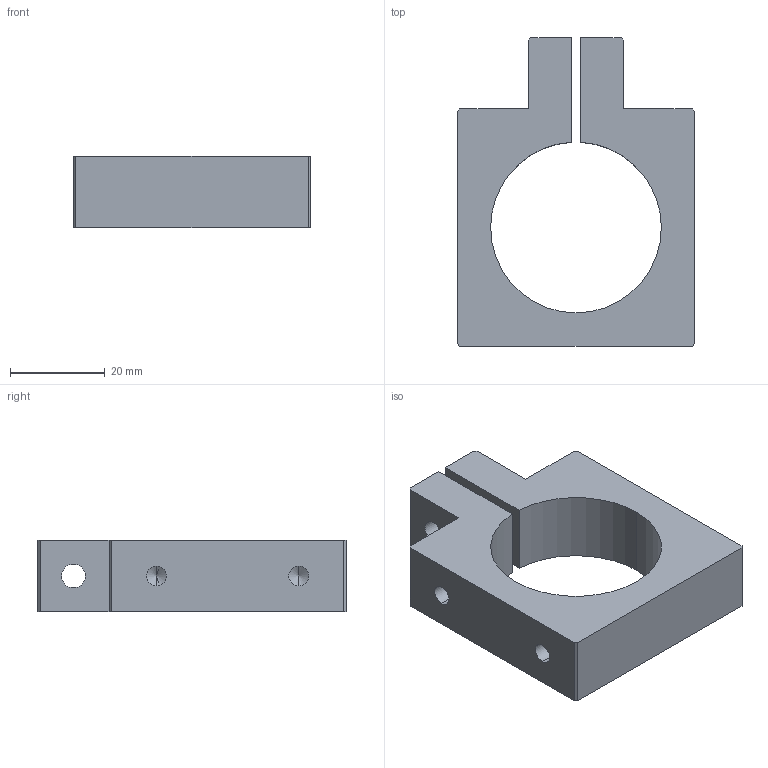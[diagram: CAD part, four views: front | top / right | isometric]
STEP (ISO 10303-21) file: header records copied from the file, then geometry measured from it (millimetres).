
FILE_DESCRIPTION (( 'STEP AP214' ), '1' );
FILE_NAME ('SCE4-NR10.STEP', '2019-11-19T02:24:18', ( '微软用户' ), ( '微软中国' ), 'SwSTEP 2.0', 'SolidWorks 2016', '' );
FILE_SCHEMA (( 'AUTOMOTIVE_DESIGN' ));
Length unit declared in the file: millimetre
Products named in the file (1): SCE4-NR10
Bounding box: 50 x 65 x 15 mm (x, y, z)
Volume: 25007.5 mm3; surface area: 9952.2 mm2
Topology: 1 solids, 1 shells, 42 faces, 112 edges, 68 vertices
Faces by surface type: plane 19, cylinder 15, cone 8
Entity records: 1398 total; most frequent: DIRECTION 220, CARTESIAN_POINT 215, ORIENTED_EDGE 208, EDGE_CURVE 104, LINE 74, VECTOR 74, AXIS2_PLACEMENT_3D 73, VERTEX_POINT 68
